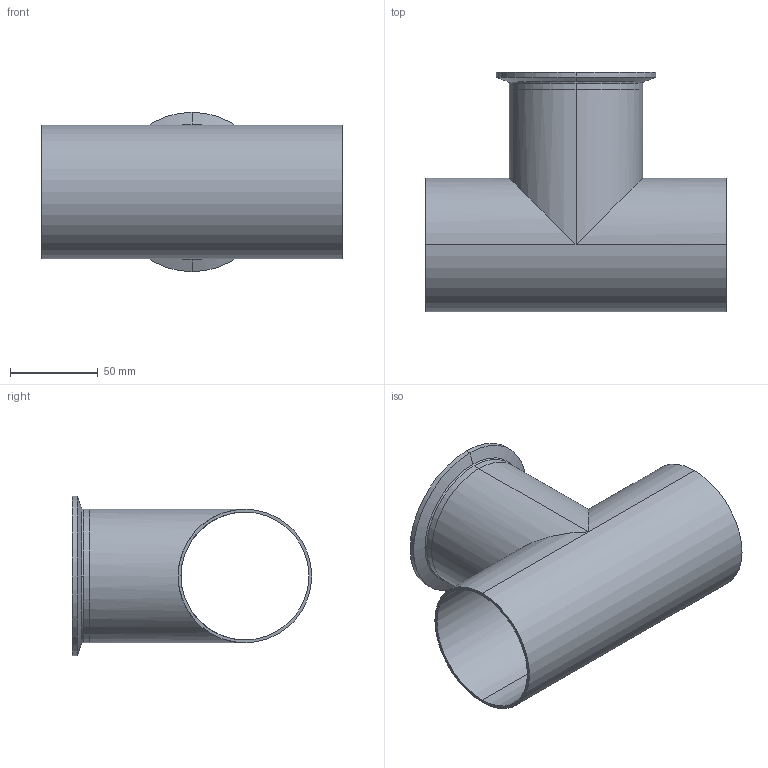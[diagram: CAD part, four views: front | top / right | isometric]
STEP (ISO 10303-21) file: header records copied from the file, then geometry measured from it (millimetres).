
FILE_DESCRIPTION (( 'STEP AP214' ), '1' );
FILE_NAME ('TE7WWC6L3.0-...STEP', '2016-05-23T05:52:22', ( 'eran' ), ( '' ), 'SwSTEP 2.0', 'SolidWorks 2016', '' );
FILE_SCHEMA (( 'AUTOMOTIVE_DESIGN' ));
Length unit declared in the file: millimetre
Products named in the file (1): TE7WWC6L3.0-..
Bounding box: 171.4 x 136.53 x 90.91 mm (x, y, z)
Volume: 93589.8 mm3; surface area: 109613.5 mm2
Topology: 2 solids, 2 shells, 38 faces, 92 edges, 58 vertices
Faces by surface type: cylinder 16, bspline 10, plane 6, cone 6
Entity records: 1870 total; most frequent: CARTESIAN_POINT 935, DIRECTION 198, ORIENTED_EDGE 184, EDGE_CURVE 92, AXIS2_PLACEMENT_3D 87, CIRCLE 58, VERTEX_POINT 58, EDGE_LOOP 44
